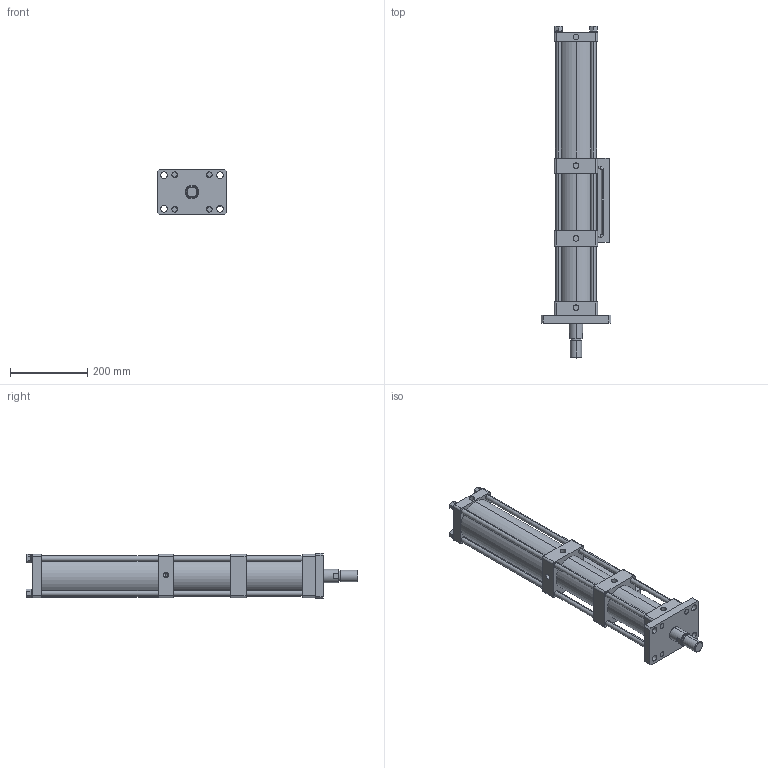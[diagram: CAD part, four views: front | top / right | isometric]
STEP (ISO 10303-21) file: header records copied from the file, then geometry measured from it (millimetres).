
FILE_DESCRIPTION (( 'STEP AP203' ), '1' );
FILE_NAME ('MPTF-80-100-20-5T.STEP', '2016-03-29T10:09:00', ( 'WIN' ), ( '' ), 'SwSTEP 2.0', 'SolidWorks 2014', '' );
FILE_SCHEMA (( 'CONFIG_CONTROL_DESIGN' ));
Length unit declared in the file: millimetre
Products named in the file (1): MPTF-80-100-20-5T
Bounding box: 180 x 860 x 118 mm (x, y, z)
Volume: 3575195.4 mm3; surface area: 736874.3 mm2
Topology: 5 solids, 5 shells, 266 faces, 632 edges, 413 vertices
Faces by surface type: cylinder 136, plane 120, cone 6, torus 4
Entity records: 7973 total; most frequent: DIRECTION 1448, CARTESIAN_POINT 1382, ORIENTED_EDGE 1260, EDGE_CURVE 630, AXIS2_PLACEMENT_3D 555, VERTEX_POINT 413, EDGE_LOOP 349, LINE 338
